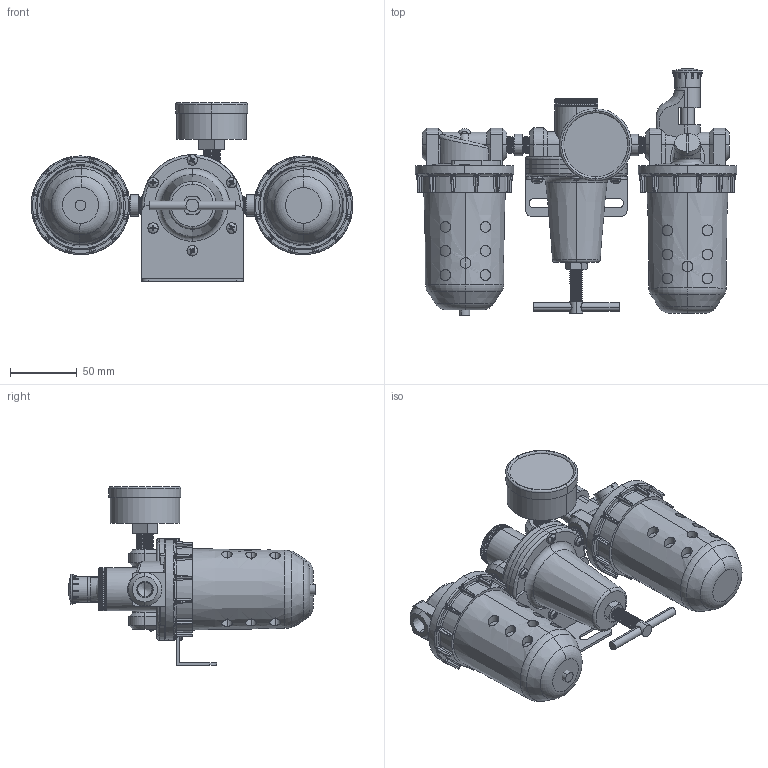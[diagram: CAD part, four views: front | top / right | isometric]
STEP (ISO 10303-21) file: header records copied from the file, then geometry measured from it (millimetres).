
FILE_DESCRIPTION (( 'STEP AP203' ), '1' );
FILE_NAME ('C628-02#YB#.STEP', '2016-01-14T17:34:15', ( '' ), ( '' ), 'SwSTEP 2.0', 'SolidWorks 2014', '' );
FILE_SCHEMA (( 'CONFIG_CONTROL_DESIGN' ));
Length unit declared in the file: millimetre
Products named in the file (24): F602-02-1; KW15Y57; R119-02-3; R119-02-5; 50-P-AD=1-4PT-1; R119-02-7; 50-P-AD=1-4PT.SLDPRT; L606-02; 1-4-圓; R119-02-6; R119-02-1; 50-P-AD=1-4PT-2; L606-W-04-1; F602-02-2; R119-02; F602-02#YB#; R119-02-4; L606-W-06-3; ISO 7045 - M4 x 16; L606-W-06-5; R119-02-2; L606-W-06-4; C628-02#YB#
Assembly tree (30 placements, depth 4):
  C628-02#YB#
    F602-02#YB#
      F602-02-1
      F602-02-2
      L606-W-06-5
    R119-02
      R119-02-1
      R119-02-2
      R119-02-3
      R119-02-4
      ISO 7045 - M4 x 16  x6
      R119-02-5
      R119-02-6
      R119-02-7
      KW15Y57
      50-P-AD=1-4PT.SLDPRT
        50-P-AD=1-4PT-1
        50-P-AD=1-4PT-2
    L606-02
      L606-W-06-4
      L606-W-06-3  x2
      L606-W-04-1
      L606-02
    1-4-圓  x2
Bounding box: 241 x 184.5 x 134 mm (x, y, z)
Volume: 994346.4 mm3; surface area: 167007.1 mm2
Topology: 26 solids, 26 shells, 1698 faces, 4195 edges, 2524 vertices
Faces by surface type: plane 543, cylinder 412, cone 357, bspline 215, torus 99, sphere 72
Entity records: 64830 total; most frequent: CARTESIAN_POINT 30531, ORIENTED_EDGE 7134, DIRECTION 5986, EDGE_CURVE 3567, AXIS2_PLACEMENT_3D 2451, VERTEX_POINT 2175, EDGE_LOOP 1544, ADVANCED_FACE 1474
